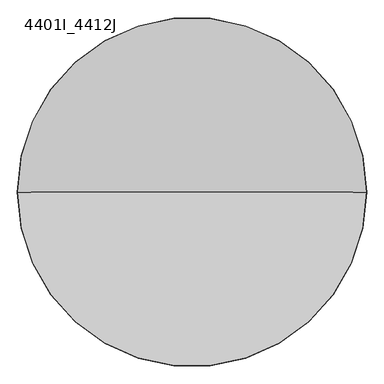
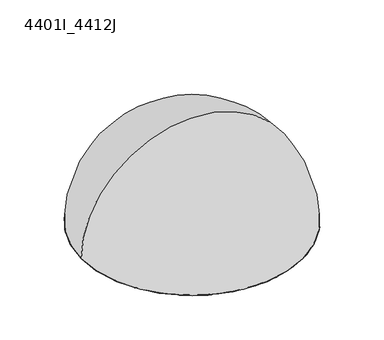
"""IFC4 building model written with IfcOpenShell, lengths in millimetres: alarm geometry, 4401I_Analog Smoke Detector : 4401I_4412J."""

from ifc_helpers import new_model, si_unit, point, frame, origin, origin_with_axes, origin_2d, place, context, project, spatial, polyline, circle_curve, ellipse_curve, trimmed, segment, composite_curve, outline, extrude, source, transform, mapped, element, save
from ifc_brep_helpers import plane_surface, cylinder_surface, revolved_surface, advanced_brep


def alarm_4401i_4412j_49958223(model_context):
    return source(origin(), model_context, "Body", "SolidModel", [
        advanced_brep(
        [(49.4021885, 0.0, 18.7), (-49.4021885, 0.0, 18.7), (-25.0, 0.0, 26.9055913), (25.0, 0.0, 26.9055913), (46.9790343, 0.0, 18.7), (-46.9790343, 0.0, 18.7), (22.5768458, 0.0, 26.9055913), (-22.5768458, 0.0, 26.9055913)],
        [
            (0, 1, circle_curve(frame((0.0, 0.0, 18.7), z_axis=(0.0, 0.0, 1.0), x_axis=(-1.0, 0.0, 0.0)), 49.4021885)),
            (1, 2),
            (2, 3, circle_curve(frame((0.0, 0.0, 26.9055913), z_axis=(0.0, 0.0, -1.0), x_axis=(-1.0, 0.0, 0.0)), 25.0)),
            (3, 0),
            (1, 0, circle_curve(frame((0.0, 0.0, 18.7), z_axis=(0.0, 0.0, 1.0), x_axis=(-1.0, 0.0, 0.0)), 49.4021885)),
            (3, 2, circle_curve(frame((0.0, 0.0, 26.9055913), z_axis=(0.0, 0.0, -1.0), x_axis=(-1.0, 0.0, 0.0)), 25.0)),
            (4, 5, circle_curve(frame((0.0, 0.0, 18.7), z_axis=(0.0, 0.0, 1.0), x_axis=(-1.0, 0.0, 0.0)), 46.9790343)),
            (5, 1),
            (0, 4),
            (5, 4, circle_curve(frame((0.0, 0.0, 18.7), z_axis=(0.0, 0.0, 1.0), x_axis=(-1.0, 0.0, 0.0)), 46.9790343)),
            (6, 7, circle_curve(frame((0.0, 0.0, 26.9055913), z_axis=(0.0, 0.0, 1.0), x_axis=(-1.0, 0.0, 0.0)), 22.5768458)),
            (7, 5),
            (4, 6),
            (7, 6, circle_curve(frame((0.0, 0.0, 26.9055913), z_axis=(0.0, 0.0, 1.0), x_axis=(-1.0, 0.0, 0.0)), 22.5768458)),
            (2, 7),
            (6, 3),
        ],
        [
            revolved_surface(polyline([(-25.0, 0.0, 26.9055913), (-49.4021885, 0.0, 18.7)]), (0.0, 0.0, 2609.0581012), (0.0, 0.0, -1.0)),
            plane_surface(frame((0.0, 0.0, 18.7), z_axis=(0.0, 0.0, -1.0), x_axis=(-1.0, 0.0, 0.0))),
            revolved_surface(polyline([(-46.9790343, 0.0, 18.7), (-22.5768458, 0.0, 26.9055913)]), (0.0, 0.0, 2609.0581012), (0.0, 0.0, -1.0)),
            plane_surface(frame((0.0, 0.0, 26.9055913), z_axis=(0.0, 0.0, 1.0), x_axis=(-1.0, 0.0, 0.0))),
        ],
        [
            (0, [[1, 2, 3, 4]]),
            (0, [[5, -4, 6, -2]]),
            (1, [[7, 8, -1, 9]]),
            (1, [[10, -9, -5, -8]]),
            (2, [[11, 12, -7, 13]]),
            (2, [[14, -13, -10, -12]]),
            (3, [[-3, 15, -11, 16]]),
            (3, [[-6, -16, -14, -15]]),
        ],
    ),
        advanced_brep(
        [(-25.0, 0.0, 40.0055913), (25.0, 0.0, 40.0055913), (-10.2364426, 22.8082275, 26.9055913), (-7.8171012, 23.7464298, 26.9055913), (-6.566365, 19.9470011, 26.9055913), (-0.7601379, 20.9862381, 26.9055913), (-0.7748533, 24.9879892, 26.9055913), (1.8194655, 24.933703, 26.9055913), (1.528351, 20.9443105, 26.9055913), (7.2926143, 19.6930895, 26.9055913), (8.8036125, 23.3986411, 26.9055913), (11.1815896, 22.3600549, 26.9055913), (9.3925353, 18.7824461, 26.9055913), (14.2453716, 15.4294973, 26.9055913), (17.0541691, 18.2799157, 26.9055913), (18.857118, 16.4136864, 26.9055913), (15.8399791, 13.7874966, 26.9055913), (19.0494019, 8.8385682, 26.9055913), (22.7323284, 10.4039053, 26.9055913), (23.688298, 7.9915291, 26.9055913), (19.8981703, 6.7128844, 26.9055913), (20.9800803, 0.9144573, 26.9055913), (24.9816149, 0.9586025, 26.9055913), (25.0, 0.0, 26.9055913), (24.9464097, -1.6360453, 26.9055913), (20.9549841, -1.3742781, 26.9055913), (19.7461893, -7.1475874, 26.9055913), (23.4627531, -8.6312929, 26.9055913), (22.4416834, -11.0168438, 26.9055913), (18.851014, -9.2541488, 26.9055913), (15.5338454, -14.1315126, 26.9055913), (18.4048435, -16.9192711, 26.9055913), (16.5519242, -18.7358962, 26.9055913), (13.9036163, -15.7381528, 26.9055913), (8.978425, -18.9838849, 26.9055913), (10.5708052, -22.6551998, 26.9055913), (8.1655248, -23.628885, 26.9055913), (6.8590408, -19.8482634, 26.9055913), (1.0687273, -20.9727877, 26.9055913), (1.1422999, -24.9738894, 26.9055913), (-1.4525367, -24.9577671, 26.9055913), (-1.2201308, -20.9645243, 26.9055913), (-7.0021739, -19.7982211, 26.9055913), (-8.4585064, -23.5255961, 26.9055913), (-10.8515021, -22.5220981, 26.9055913), (-9.1152617, -18.9185624, 26.9055913), (-14.0168893, -15.6373532, 26.9055913), (-16.7834581, -18.5287758, 26.9055913), (-18.613661, -16.6892667, 26.9055913), (-15.6354753, -14.018984, 26.9055913), (-18.9173411, -9.1177961, 26.9055913), (-22.5768458, -10.7371334, 26.9055913), (-23.5681939, -8.3390788, 26.9055913), (-19.7972829, -7.0048262, 26.9055913), (-20.9643607, -1.2229394, 26.9055913), (-24.9648131, -1.3259355, 26.9055913), (-25.0, 0.0, 26.9055913), (-24.9677746, 1.2689495, 26.9055913), (-20.9729306, 1.0659176, 26.9055913), (-19.8491821, 6.8563817, 26.9055913), (-23.5871666, 8.2852624, 26.9055913), (-22.2772169, 11.3457307, 26.9055913), (-18.7128622, 9.5304138, 26.9055913), (-15.3243147, 14.3584602, 26.9055913), (-18.1539992, 17.1881446, 26.9055913), (-16.2745608, 18.9773199, 26.9055913), (-13.6706311, 15.9409487, 26.9055913), (-8.6982334, 19.1138885, 26.9055913), (-24.9648131, -1.3259355, 35.6055913), (-23.5681939, -8.3390788, 35.6055913), (-22.5768458, -10.7371334, 35.6055913), (-18.613661, -16.6892667, 35.6055913), (-16.7834581, -18.5287758, 35.6055913), (-10.8515021, -22.5220981, 35.6055913), (-8.4585064, -23.5255961, 35.6055913), (-1.4525367, -24.9577671, 35.6055913), (1.1422999, -24.9738894, 35.6055913), (8.1655248, -23.628885, 35.6055913), (10.5708052, -22.6551998, 35.6055913), (16.5519242, -18.7358962, 35.6055913), (18.4048435, -16.9192711, 35.6055913), (22.4416834, -11.0168438, 35.6055913), (23.4627531, -8.6312929, 35.6055913), (24.9464097, -1.6360453, 35.6055913), (24.9816149, 0.9586025, 35.6055913), (23.688298, 7.9915291, 35.6055913), (22.7323284, 10.4039053, 35.6055913), (18.857118, 16.4136864, 35.6055913), (17.0541691, 18.2799157, 35.6055913), (11.1815896, 22.3600549, 35.6055913), (8.8036125, 23.3986411, 35.6055913), (1.8194655, 24.933703, 35.6055913), (-0.7748533, 24.9879892, 35.6055913), (-7.8171012, 23.7464298, 35.6055913), (-10.2364426, 22.8082275, 35.6055913), (-16.2745608, 18.9773199, 35.6055913), (-18.1539992, 17.1881446, 35.6055913), (-22.2772169, 11.3457307, 35.6055913), (-23.5871666, 8.2852624, 35.6055913), (-24.9677746, 1.2689495, 35.6055913), (-8.6982334, 19.1138885, 35.6055913), (-13.6706311, 15.9409487, 35.6055913), (-0.7601379, 20.9862381, 35.6055913), (-6.566365, 19.9470011, 35.6055913), (7.2926143, 19.6930895, 35.6055913), (1.528351, 20.9443105, 35.6055913), (14.2453716, 15.4294973, 35.6055913), (9.3925353, 18.7824461, 35.6055913), (19.0494019, 8.8385682, 35.6055913), (15.8399791, 13.7874966, 35.6055913), (20.9800803, 0.9144573, 35.6055913), (19.8981703, 6.7128844, 35.6055913), (19.7461893, -7.1475874, 35.6055913), (20.9549841, -1.3742781, 35.6055913), (15.5338454, -14.1315126, 35.6055913), (18.851014, -9.2541488, 35.6055913), (8.978425, -18.9838849, 35.6055913), (13.9036163, -15.7381528, 35.6055913), (1.0687273, -20.9727877, 35.6055913), (6.8590408, -19.8482634, 35.6055913), (-7.0021739, -19.7982211, 35.6055913), (-1.2201308, -20.9645243, 35.6055913), (-14.0168893, -15.6373532, 35.6055913), (-9.1152617, -18.9185624, 35.6055913), (-18.9173411, -9.1177961, 35.6055913), (-15.6354753, -14.018984, 35.6055913), (-20.9643607, -1.2229394, 35.6055913), (-19.7972829, -7.0048262, 35.6055913), (-19.8491821, 6.8563817, 35.6055913), (-20.9729306, 1.0659176, 35.6055913), (-15.3243147, 14.3584602, 35.6055913), (-18.7128622, 9.5304138, 35.6055913)],
        [
            (0, 1, circle_curve(frame((0.0, 0.0, 40.0055913), z_axis=(0.0, 0.0, 1.0), x_axis=(1.0, 0.0, 0.0)), 25.0)),
            (1, 0, circle_curve(frame((0.0, 0.0, 40.0055913), z_axis=(0.0, 0.0, 1.0), x_axis=(1.0, 0.0, 0.0)), 25.0)),
            (2, 3, circle_curve(frame((0.0, 0.0, 26.9055913), z_axis=(0.0, 0.0, -1.0), x_axis=(1.0, 0.0, 0.0)), 25.0)),
            (3, 4),
            (4, 5, circle_curve(frame((0.0, 0.0, 26.9055913), z_axis=(0.0, 0.0, -1.0), x_axis=(0.7097021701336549, -0.7045018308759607, 0.0)), 21.0)),
            (5, 6),
            (6, 7, circle_curve(frame((0.0, 0.0, 26.9055913), z_axis=(0.0, 0.0, -1.0), x_axis=(1.0, 0.0, 0.0)), 25.0)),
            (7, 8),
            (8, 9, circle_curve(frame((0.0, 0.0, 26.9055913), z_axis=(0.0, 0.0, -1.0), x_axis=(0.38777352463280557, -0.9217546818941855, 0.0)), 21.0)),
            (9, 10),
            (10, 11, circle_curve(frame((0.0, 0.0, 26.9055913), z_axis=(0.0, 0.0, -1.0), x_axis=(1.0, 0.0, 0.0)), 25.0)),
            (11, 12),
            (12, 13, circle_curve(frame((0.0, 0.0, 26.9055913), z_axis=(0.0, 0.0, -1.0), x_axis=(0.0073543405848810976, -0.9999729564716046, 0.0)), 21.0)),
            (13, 14),
            (14, 15, circle_curve(frame((0.0, 0.0, 26.9055913), z_axis=(0.0, 0.0, -1.0), x_axis=(1.0, 0.0, 0.0)), 25.0)),
            (15, 16),
            (16, 17, circle_curve(frame((0.0, 0.0, 26.9055913), z_axis=(0.0, 0.0, -1.0), x_axis=(-0.3741741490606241, -0.9273584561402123, 0.0)), 21.0)),
            (17, 18),
            (18, 19, circle_curve(frame((0.0, 0.0, 26.9055913), z_axis=(0.0, 0.0, -1.0), x_axis=(1.0, 0.0, 0.0)), 25.0)),
            (19, 20),
            (20, 21, circle_curve(frame((0.0, 0.0, 26.9055913), z_axis=(0.0, 0.0, -1.0), x_axis=(-0.6992633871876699, -0.7148641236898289, 0.0)), 21.0)),
            (21, 22),
            (22, 23, circle_curve(frame((0.0, 0.0, 26.9055913), z_axis=(0.0, 0.0, -1.0), x_axis=(1.0, 0.0, 0.0)), 25.0)),
            (23, 24, circle_curve(frame((0.0, 0.0, 26.9055913), z_axis=(0.0, 0.0, -1.0), x_axis=(1.0, 0.0, 0.0)), 25.0)),
            (24, 25),
            (25, 26, circle_curve(frame((0.0, 0.0, 26.9055913), z_axis=(0.0, 0.0, -1.0), x_axis=(-0.9188779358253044, -0.39454193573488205, 0.0)), 21.0)),
            (26, 27),
            (27, 28, circle_curve(frame((0.0, 0.0, 26.9055913), z_axis=(0.0, 0.0, -1.0), x_axis=(1.0, 0.0, 0.0)), 25.0)),
            (28, 29),
            (29, 30, circle_curve(frame((0.0, 0.0, 26.9055913), z_axis=(0.0, 0.0, -1.0), x_axis=(-0.9998918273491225, -0.014708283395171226, 0.0)), 21.0)),
            (30, 31),
            (31, 32, circle_curve(frame((0.0, 0.0, 26.9055913), z_axis=(0.0, 0.0, -1.0), x_axis=(1.0, 0.0, 0.0)), 25.0)),
            (32, 33),
            (33, 34, circle_curve(frame((0.0, 0.0, 26.9055913), z_axis=(0.0, 0.0, -1.0), x_axis=(-0.9300851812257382, 0.3673439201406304, 0.0)), 21.0)),
            (34, 35),
            (35, 36, circle_curve(frame((0.0, 0.0, 26.9055913), z_axis=(0.0, 0.0, -1.0), x_axis=(1.0, 0.0, 0.0)), 25.0)),
            (36, 37),
            (37, 38, circle_curve(frame((0.0, 0.0, 26.9055913), z_axis=(0.0, 0.0, -1.0), x_axis=(-0.7199874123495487, 0.6939871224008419, 0.0)), 21.0)),
            (38, 39),
            (39, 40, circle_curve(frame((0.0, 0.0, 26.9055913), z_axis=(0.0, 0.0, -1.0), x_axis=(1.0, 0.0, 0.0)), 25.0)),
            (40, 41),
            (41, 42, circle_curve(frame((0.0, 0.0, 26.9055913), z_axis=(0.0, 0.0, -1.0), x_axis=(-0.4012890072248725, 0.9159514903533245, 0.0)), 21.0)),
            (42, 43),
            (43, 44, circle_curve(frame((0.0, 0.0, 26.9055913), z_axis=(0.0, 0.0, -1.0), x_axis=(1.0, 0.0, 0.0)), 25.0)),
            (44, 45),
            (45, 46, circle_curve(frame((0.0, 0.0, 26.9055913), z_axis=(0.0, 0.0, -1.0), x_axis=(-0.022061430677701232, 0.9997566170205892, 0.0)), 21.0)),
            (46, 47),
            (47, 48, circle_curve(frame((0.0, 0.0, 26.9055913), z_axis=(0.0, 0.0, -1.0), x_axis=(1.0, 0.0, 0.0)), 25.0)),
            (48, 49),
            (49, 50, circle_curve(frame((0.0, 0.0, 26.9055913), z_axis=(0.0, 0.0, -1.0), x_axis=(0.36049382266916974, 0.9327616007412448, 0.0)), 21.0)),
            (50, 51),
            (51, 52, circle_curve(frame((0.0, 0.0, 26.9055913), z_axis=(0.0, 0.0, -1.0), x_axis=(1.0, 0.0, 0.0)), 25.0)),
            (52, 53),
            (53, 54, circle_curve(frame((0.0, 0.0, 26.9055913), z_axis=(0.0, 0.0, -1.0), x_axis=(0.6886733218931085, 0.7250717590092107, 0.0)), 21.0)),
            (54, 55),
            (55, 56, circle_curve(frame((0.0, 0.0, 26.9055913), z_axis=(0.0, 0.0, -1.0), x_axis=(1.0, 0.0, 0.0)), 25.0)),
            (56, 57, circle_curve(frame((0.0, 0.0, 26.9055913), z_axis=(0.0, 0.0, -1.0), x_axis=(1.0, 0.0, 0.0)), 25.0)),
            (57, 58),
            (58, 59, circle_curve(frame((0.0, 0.0, 26.9055913), z_axis=(0.0, 0.0, -1.0), x_axis=(0.9129755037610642, 0.4080143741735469, 0.0)), 21.0)),
            (59, 60),
            (60, 61, circle_curve(frame((0.0, 0.0, 26.9055913), z_axis=(0.0, 0.0, -1.0), x_axis=(1.0, 0.0, 0.0)), 25.0)),
            (61, 62),
            (62, 63, circle_curve(frame((0.0, 0.0, 26.9055913), z_axis=(0.0, 0.0, -1.0), x_axis=(1.0, 0.0, 0.0)), 21.0)),
            (63, 64),
            (64, 65, circle_curve(frame((0.0, 0.0, 26.9055913), z_axis=(0.0, 0.0, -1.0), x_axis=(1.0, 0.0, 0.0)), 25.0)),
            (65, 66),
            (66, 67, circle_curve(frame((0.0, 0.0, 26.9055913), z_axis=(0.0, 0.0, -1.0), x_axis=(0.9245815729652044, -0.3809841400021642, 0.0)), 21.0)),
            (67, 2),
            (0, 56),
            (55, 68),
            (68, 69, circle_curve(frame((0.0, 0.0, 35.6055913), z_axis=(0.0, 0.0, 1.0), x_axis=(1.0, 0.0, 0.0)), 25.0)),
            (69, 52),
            (51, 70),
            (70, 71, circle_curve(frame((0.0, 0.0, 35.6055913), z_axis=(0.0, 0.0, 1.0), x_axis=(1.0, 0.0, 0.0)), 25.0)),
            (71, 48),
            (47, 72),
            (72, 73, circle_curve(frame((0.0, 0.0, 35.6055913), z_axis=(0.0, 0.0, 1.0), x_axis=(1.0, 0.0, 0.0)), 25.0)),
            (73, 44),
            (43, 74),
            (74, 75, circle_curve(frame((0.0, 0.0, 35.6055913), z_axis=(0.0, 0.0, 1.0), x_axis=(1.0, 0.0, 0.0)), 25.0)),
            (75, 40),
            (39, 76),
            (76, 77, circle_curve(frame((0.0, 0.0, 35.6055913), z_axis=(0.0, 0.0, 1.0), x_axis=(1.0, 0.0, 0.0)), 25.0)),
            (77, 36),
            (35, 78),
            (78, 79, circle_curve(frame((0.0, 0.0, 35.6055913), z_axis=(0.0, 0.0, 1.0), x_axis=(1.0, 0.0, 0.0)), 25.0)),
            (79, 32),
            (31, 80),
            (80, 81, circle_curve(frame((0.0, 0.0, 35.6055913), z_axis=(0.0, 0.0, 1.0), x_axis=(1.0, 0.0, 0.0)), 25.0)),
            (81, 28),
            (27, 82),
            (82, 83, circle_curve(frame((0.0, 0.0, 35.6055913), z_axis=(0.0, 0.0, 1.0), x_axis=(1.0, 0.0, 0.0)), 25.0)),
            (83, 24),
            (23, 1),
            (22, 84),
            (84, 85, circle_curve(frame((0.0, 0.0, 35.6055913), z_axis=(0.0, 0.0, 1.0), x_axis=(1.0, 0.0, 0.0)), 25.0)),
            (85, 19),
            (18, 86),
            (86, 87, circle_curve(frame((0.0, 0.0, 35.6055913), z_axis=(0.0, 0.0, 1.0), x_axis=(1.0, 0.0, 0.0)), 25.0)),
            (87, 15),
            (14, 88),
            (88, 89, circle_curve(frame((0.0, 0.0, 35.6055913), z_axis=(0.0, 0.0, 1.0), x_axis=(1.0, 0.0, 0.0)), 25.0)),
            (89, 11),
            (10, 90),
            (90, 91, circle_curve(frame((0.0, 0.0, 35.6055913), z_axis=(0.0, 0.0, 1.0), x_axis=(1.0, 0.0, 0.0)), 25.0)),
            (91, 7),
            (6, 92),
            (92, 93, circle_curve(frame((0.0, 0.0, 35.6055913), z_axis=(0.0, 0.0, 1.0), x_axis=(1.0, 0.0, 0.0)), 25.0)),
            (93, 3),
            (2, 94),
            (94, 95, circle_curve(frame((0.0, 0.0, 35.6055913), z_axis=(0.0, 0.0, 1.0), x_axis=(1.0, 0.0, 0.0)), 25.0)),
            (95, 65),
            (64, 96),
            (96, 97, circle_curve(frame((0.0, 0.0, 35.6055913), z_axis=(0.0, 0.0, 1.0), x_axis=(1.0, 0.0, 0.0)), 25.0)),
            (97, 61),
            (60, 98),
            (98, 99, circle_curve(frame((0.0, 0.0, 35.6055913), z_axis=(0.0, 0.0, 1.0), x_axis=(1.0, 0.0, 0.0)), 25.0)),
            (99, 57),
            (100, 101, circle_curve(frame((0.0, 0.0, 35.6055913), z_axis=(0.0, 0.0, 1.0), x_axis=(0.9245815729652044, -0.3809841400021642, 0.0)), 21.0)),
            (101, 95),
            (94, 100),
            (102, 103, circle_curve(frame((0.0, 0.0, 35.6055913), z_axis=(0.0, 0.0, 1.0), x_axis=(0.7097021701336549, -0.7045018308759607, 0.0)), 21.0)),
            (103, 93),
            (92, 102),
            (104, 105, circle_curve(frame((0.0, 0.0, 35.6055913), z_axis=(0.0, 0.0, 1.0), x_axis=(0.38777352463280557, -0.9217546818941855, 0.0)), 21.0)),
            (105, 91),
            (90, 104),
            (106, 107, circle_curve(frame((0.0, 0.0, 35.6055913), z_axis=(0.0, 0.0, 1.0), x_axis=(0.0073543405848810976, -0.9999729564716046, 0.0)), 21.0)),
            (107, 89),
            (88, 106),
            (108, 109, circle_curve(frame((0.0, 0.0, 35.6055913), z_axis=(0.0, 0.0, 1.0), x_axis=(-0.3741741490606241, -0.9273584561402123, 0.0)), 21.0)),
            (109, 87),
            (86, 108),
            (110, 111, circle_curve(frame((0.0, 0.0, 35.6055913), z_axis=(0.0, 0.0, 1.0), x_axis=(-0.6992633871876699, -0.7148641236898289, 0.0)), 21.0)),
            (111, 85),
            (84, 110),
            (112, 113, circle_curve(frame((0.0, 0.0, 35.6055913), z_axis=(0.0, 0.0, 1.0), x_axis=(-0.9188779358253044, -0.39454193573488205, 0.0)), 21.0)),
            (113, 83),
            (82, 112),
            (114, 115, circle_curve(frame((0.0, 0.0, 35.6055913), z_axis=(0.0, 0.0, 1.0), x_axis=(-0.9998918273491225, -0.014708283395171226, 0.0)), 21.0)),
            (115, 81),
            (80, 114),
            (116, 117, circle_curve(frame((0.0, 0.0, 35.6055913), z_axis=(0.0, 0.0, 1.0), x_axis=(-0.9300851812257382, 0.3673439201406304, 0.0)), 21.0)),
            (117, 79),
            (78, 116),
            (118, 119, circle_curve(frame((0.0, 0.0, 35.6055913), z_axis=(0.0, 0.0, 1.0), x_axis=(-0.7199874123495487, 0.6939871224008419, 0.0)), 21.0)),
            (119, 77),
            (76, 118),
            (120, 121, circle_curve(frame((0.0, 0.0, 35.6055913), z_axis=(0.0, 0.0, 1.0), x_axis=(-0.4012890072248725, 0.9159514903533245, 0.0)), 21.0)),
            (121, 75),
            (74, 120),
            (122, 123, circle_curve(frame((0.0, 0.0, 35.6055913), z_axis=(0.0, 0.0, 1.0), x_axis=(-0.022061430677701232, 0.9997566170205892, 0.0)), 21.0)),
            (123, 73),
            (72, 122),
            (124, 125, circle_curve(frame((0.0, 0.0, 35.6055913), z_axis=(0.0, 0.0, 1.0), x_axis=(0.36049382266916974, 0.9327616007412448, 0.0)), 21.0)),
            (125, 71),
            (70, 124),
            (126, 127, circle_curve(frame((0.0, 0.0, 35.6055913), z_axis=(0.0, 0.0, 1.0), x_axis=(0.6886733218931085, 0.7250717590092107, 0.0)), 21.0)),
            (127, 69),
            (68, 126),
            (128, 129, circle_curve(frame((0.0, 0.0, 35.6055913), z_axis=(0.0, 0.0, 1.0), x_axis=(0.9129755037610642, 0.4080143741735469, 0.0)), 21.0)),
            (129, 99),
            (98, 128),
            (130, 131, circle_curve(frame((0.0, 0.0, 35.6055913), z_axis=(0.0, 0.0, 1.0), x_axis=(1.0, 0.0, 0.0)), 21.0)),
            (131, 97),
            (96, 130),
            (100, 67),
            (66, 101),
            (102, 5),
            (4, 103),
            (104, 9),
            (8, 105),
            (106, 13),
            (12, 107),
            (108, 17),
            (16, 109),
            (110, 21),
            (20, 111),
            (26, 112),
            (113, 25),
            (30, 114),
            (115, 29),
            (34, 116),
            (117, 33),
            (119, 37),
            (118, 38),
            (42, 120),
            (121, 41),
            (46, 122),
            (123, 45),
            (125, 49),
            (124, 50),
            (127, 53),
            (126, 54),
            (128, 59),
            (58, 129),
            (130, 63),
            (62, 131),
        ],
        [
            plane_surface(frame((25.0, 0.0, 40.0055913), z_axis=(0.0, 0.0, 1.0), x_axis=(0.0, 1.0, 0.0))),
            plane_surface(frame((25.0, 0.0, 26.9055913), z_axis=(0.0, 0.0, -1.0), x_axis=(0.0, -1.0, 0.0))),
            cylinder_surface(frame((0.0, 0.0, 26.9055913), z_axis=(0.0, 0.0, 1.0), x_axis=(1.0, 0.0, 0.0)), 25.0),
            plane_surface(frame((19.416213, -8.0006669, 35.6055913), z_axis=(0.0, 0.0, -1.0), x_axis=(-0.38098414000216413, -0.9245815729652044, 0.0))),
            cylinder_surface(frame((0.0, 0.0, 26.9055913), z_axis=(0.0, 0.0, -1.0000000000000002), x_axis=(0.9245815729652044, -0.3809841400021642, 0.0)), 21.0),
            plane_surface(frame((-8.6982334, 19.1138885, 35.6055913), z_axis=(-0.9231743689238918, -0.3843814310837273, 0.0), x_axis=(0.0, 0.0, -1.0))),
            plane_surface(frame((-18.8784906, 22.0136911, 35.6055913), z_axis=(0.7590927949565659, 0.6509824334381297, 0.0), x_axis=(0.0, 0.0, -1.0))),
            cylinder_surface(frame((0.0, 0.0, 0.0), z_axis=(0.0, 0.0, -1.0), x_axis=(0.7097021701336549, -0.7045018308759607, 0.0)), 21.0),
            plane_surface(frame((-0.7601379, 20.9862381, 35.6055913), z_axis=(-0.9999932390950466, -0.0036771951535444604, 0.0), x_axis=(0.0, 0.0, -1.0))),
            plane_surface(frame((-9.0678374, 27.5458586, 35.6055913), z_axis=(0.9498571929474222, 0.3126840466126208, 0.0), x_axis=(0.0, 0.0, -1.0))),
            cylinder_surface(frame((0.0, 0.0, 0.0), z_axis=(0.0, 0.0, -1.0000000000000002), x_axis=(0.38777352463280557, -0.9217546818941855, 0.0)), 21.0),
            plane_surface(frame((7.2926143, 19.6930895, 35.6055913), z_axis=(-0.9259762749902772, 0.37758169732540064, 0.0), x_axis=(0.0, 0.0, -1.0))),
            plane_surface(frame((2.1105799, 28.9230955, 35.6055913), z_axis=(0.9973481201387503, -0.07277861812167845, 0.0), x_axis=(0.0, 0.0, -1.0))),
            cylinder_surface(frame((0.0, 0.0, 0.0), z_axis=(0.0, 0.0, -1.0), x_axis=(0.0073543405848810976, -0.9999729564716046, 0.0)), 21.0),
            plane_surface(frame((14.2453716, 15.4294973, 35.6055913), z_axis=(-0.7122879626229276, 0.7018873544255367, 0.0), x_axis=(0.0, 0.0, -1.0))),
            plane_surface(frame((12.970644, 25.9376636, 35.6055913), z_axis=(0.8944021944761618, -0.44726358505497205, 0.0), x_axis=(0.0, 0.0, -1.0))),
            cylinder_surface(frame((0.0, 0.0, 0.0), z_axis=(0.0, 0.0, -1.0000000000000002), x_axis=(-0.3741741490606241, -0.9273584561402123, 0.0)), 21.0),
            plane_surface(frame((19.0494019, 8.8385682, 35.6055913), z_axis=(-0.39116037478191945, 0.9203225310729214, 0.0), x_axis=(0.0, 0.0, -1.0))),
            plane_surface(frame((21.8742569, 19.0398762, 35.6055913), z_axis=(0.6565474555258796, -0.7542847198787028, 0.0), x_axis=(0.0, 0.0, -1.0))),
            cylinder_surface(frame((0.0, 0.0, 0.0), z_axis=(0.0, 0.0, -1.0), x_axis=(-0.6992633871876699, -0.7148641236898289, 0.0)), 21.0),
            plane_surface(frame((20.9800803, 0.9144573, 35.6055913), z_axis=(-0.011031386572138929, 0.999939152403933, 0.0), x_axis=(0.0, 0.0, -1.0))),
            plane_surface(frame((27.4784257, 9.2701738, 35.6055913), z_axis=(0.3196611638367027, -0.9475319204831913, 0.0), x_axis=(0.0, 0.0, -1.0))),
            plane_surface(frame((19.7461893, -7.1475874, 35.6055913), z_axis=(0.37076154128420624, 0.9287280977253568, 0.0), x_axis=(0.0, 0.0, -1.0))),
            plane_surface(frame((28.9378352, -1.8978126, 35.6055913), z_axis=(-0.06544181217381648, -0.9978563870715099, 0.0), x_axis=(0.0, 0.0, -1.0))),
            cylinder_surface(frame((0.0, 0.0, 0.0), z_axis=(0.0, 0.0, -1.0), x_axis=(-0.9188779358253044, -0.39454193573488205, 0.0)), 21.0),
            plane_surface(frame((15.5338454, -14.1315126, 35.6055913), z_axis=(0.6966299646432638, 0.7174306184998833, 0.0), x_axis=(0.0, 0.0, -1.0))),
            plane_surface(frame((26.0323527, -12.7795388, 35.6055913), z_axis=(-0.44067375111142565, -0.8976673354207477, 0.0), x_axis=(0.0, 0.0, -1.0))),
            cylinder_surface(frame((0.0, 0.0, 0.0), z_axis=(0.0, 0.0, -1.0), x_axis=(-0.9998918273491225, -0.014708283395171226, 0.0)), 21.0),
            plane_surface(frame((8.978425, -18.9838849, 35.6055913), z_axis=(0.9174209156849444, 0.39791816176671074, 0.0), x_axis=(0.0, 0.0, -1.0))),
            plane_surface(frame((19.200232, -21.7336396, 35.6055913), z_axis=(-0.7494358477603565, -0.6620769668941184, 0.0), x_axis=(0.0, 0.0, -1.0))),
            cylinder_surface(frame((0.0, 0.0, 0.0), z_axis=(0.0, 0.0, -1.0000000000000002), x_axis=(-0.9300851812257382, 0.3673439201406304, 0.0)), 21.0),
            plane_surface(frame((9.4720088, -27.4095066, 35.6055913), z_axis=(-0.945155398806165, -0.3266209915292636, 0.0), x_axis=(0.0, 0.0, -1.0))),
            cylinder_surface(frame((0.0, 0.0, 0.0), z_axis=(0.0, 0.0, -1.0000000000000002), x_axis=(-0.7199874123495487, 0.6939871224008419, 0.0)), 21.0),
            plane_surface(frame((1.0687273, -20.9727877, 35.6055913), z_axis=(0.9998309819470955, 0.01838498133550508, 0.0), x_axis=(0.0, 0.0, -1.0))),
            plane_surface(frame((-7.0021739, -19.7982211, 35.6055913), z_axis=(0.9314296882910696, -0.3639213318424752, 0.0), x_axis=(0.0, 0.0, -1.0))),
            plane_surface(frame((-1.6849425, -28.9510098, 35.6055913), z_axis=(-0.9983106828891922, 0.058101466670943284, 0.0), x_axis=(0.0, 0.0, -1.0))),
            cylinder_surface(frame((0.0, 0.0, 0.0), z_axis=(0.0, 0.0, -1.0), x_axis=(-0.4012890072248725, 0.9159514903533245, 0.0)), 21.0),
            plane_surface(frame((-14.0168893, -15.6373532, 35.6055913), z_axis=(0.7225344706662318, -0.691334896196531, 0.0), x_axis=(0.0, 0.0, -1.0))),
            plane_surface(frame((-12.5877424, -26.1256338, 35.6055913), z_axis=(-0.9008839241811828, 0.43406008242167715, 0.0), x_axis=(0.0, 0.0, -1.0))),
            cylinder_surface(frame((0.0, 0.0, 0.0), z_axis=(0.0, 0.0, -1.0), x_axis=(-0.022061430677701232, 0.9997566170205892, 0.0)), 21.0),
            plane_surface(frame((-21.5918468, -19.3595494, 35.6055913), z_axis=(-0.6675706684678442, 0.7445464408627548, 0.0), x_axis=(0.0, 0.0, -1.0))),
            cylinder_surface(frame((0.0, 0.0, 0.0), z_axis=(0.0, 0.0, -1.0000000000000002), x_axis=(0.36049382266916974, 0.9327616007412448, 0.0)), 21.0),
            plane_surface(frame((-18.9173411, -9.1177961, 35.6055913), z_axis=(0.4046544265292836, -0.914469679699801, 0.0), x_axis=(0.0, 0.0, -1.0))),
            plane_surface(frame((-27.3391049, -9.6733314, 35.6055913), z_axis=(-0.3335631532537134, 0.9427277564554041, 0.0), x_axis=(0.0, 0.0, -1.0))),
            cylinder_surface(frame((0.0, 0.0, 0.0), z_axis=(0.0, 0.0, -1.0), x_axis=(0.6886733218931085, 0.7250717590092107, 0.0)), 21.0),
            plane_surface(frame((-20.9643607, -1.2229394, 35.6055913), z_axis=(0.025737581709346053, -0.9996687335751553, 0.0), x_axis=(0.0, 0.0, -1.0))),
            cylinder_surface(frame((0.0, 0.0, 0.0), z_axis=(0.0, 0.0, -1.0), x_axis=(0.9129755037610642, 0.4080143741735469, 0.0)), 21.0),
            plane_surface(frame((-19.8491821, 6.8563817, 35.6055913), z_axis=(-0.35706143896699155, -0.9340809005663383, 0.0), x_axis=(0.0, 0.0, -1.0))),
            plane_surface(frame((-28.9626185, 1.4719814, 35.6055913), z_axis=(0.05075797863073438, 0.998710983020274, 0.0), x_axis=(0.0, 0.0, -1.0))),
            cylinder_surface(frame((0.0, 0.0, 0.0), z_axis=(0.0, 0.0, -1.0), x_axis=(1.0, 0.0, 0.0)), 21.0),
            plane_surface(frame((-15.3243147, 14.3584602, 35.6055913), z_axis=(-0.7071067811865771, -0.7071067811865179, 0.0), x_axis=(0.0, 0.0, -1.0))),
            plane_surface(frame((-25.8415717, 13.1610476, 35.6055913), z_axis=(0.45382922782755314, 0.8910886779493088, 0.0), x_axis=(0.0, 0.0, -1.0))),
        ],
        [
            (0, [[1, 2]]),
            (1, [[3, 4, 5, 6, 7, 8, 9, 10, 11, 12, 13, 14, 15, 16, 17, 18, 19, 20, 21, 22, 23, 24, 25, 26, 27, 28, 29, 30, 31, 32, 33, 34, 35, 36, 37, 38, 39, 40, 41, 42, 43, 44, 45, 46, 47, 48, 49, 50, 51, 52, 53, 54, 55, 56, 57, 58, 59, 60, 61, 62, 63, 64, 65, 66, 67, 68]]),
            (2, [[-1, 69, -56, 70, 71, 72, -52, 73, 74, 75, -48, 76, 77, 78, -44, 79, 80, 81, -40, 82, 83, 84, -36, 85, 86, 87, -32, 88, 89, 90, -28, 91, 92, 93, -24, 94]]),
            (2, [[-2, -94, -23, 95, 96, 97, -19, 98, 99, 100, -15, 101, 102, 103, -11, 104, 105, 106, -7, 107, 108, 109, -3, 110, 111, 112, -65, 113, 114, 115, -61, 116, 117, 118, -57, -69]]),
            (3, [[119, 120, -111, 121]]),
            (3, [[122, 123, -108, 124]]),
            (3, [[125, 126, -105, 127]]),
            (3, [[128, 129, -102, 130]]),
            (3, [[131, 132, -99, 133]]),
            (3, [[134, 135, -96, 136]]),
            (3, [[137, 138, -92, 139]]),
            (3, [[140, 141, -89, 142]]),
            (3, [[143, 144, -86, 145]]),
            (3, [[146, 147, -83, 148]]),
            (3, [[149, 150, -80, 151]]),
            (3, [[152, 153, -77, 154]]),
            (3, [[155, 156, -74, 157]]),
            (3, [[158, 159, -71, 160]]),
            (3, [[161, 162, -117, 163]]),
            (3, [[164, 165, -114, 166]]),
            (4, [[-119, 167, -67, 168]]),
            (5, [[-167, -121, -110, -68]]),
            (6, [[-168, -66, -112, -120]]),
            (7, [[-122, 169, -5, 170]]),
            (8, [[-169, -124, -107, -6]]),
            (9, [[-170, -4, -109, -123]]),
            (10, [[-125, 171, -9, 172]]),
            (11, [[-171, -127, -104, -10]]),
            (12, [[-172, -8, -106, -126]]),
            (13, [[-128, 173, -13, 174]]),
            (14, [[-173, -130, -101, -14]]),
            (15, [[-174, -12, -103, -129]]),
            (16, [[-131, 175, -17, 176]]),
            (17, [[-175, -133, -98, -18]]),
            (18, [[-176, -16, -100, -132]]),
            (19, [[-134, 177, -21, 178]]),
            (20, [[-177, -136, -95, -22]]),
            (21, [[-178, -20, -97, -135]]),
            (22, [[179, -139, -91, -27]]),
            (23, [[180, -25, -93, -138]]),
            (24, [[-137, -179, -26, -180]]),
            (25, [[181, -142, -88, -31]]),
            (26, [[182, -29, -90, -141]]),
            (27, [[-140, -181, -30, -182]]),
            (28, [[183, -145, -85, -35]]),
            (29, [[184, -33, -87, -144]]),
            (30, [[-143, -183, -34, -184]]),
            (31, [[185, -37, -84, -147]]),
            (32, [[-146, 186, -38, -185]]),
            (33, [[-186, -148, -82, -39]]),
            (34, [[187, -151, -79, -43]]),
            (35, [[188, -41, -81, -150]]),
            (36, [[-149, -187, -42, -188]]),
            (37, [[189, -154, -76, -47]]),
            (38, [[190, -45, -78, -153]]),
            (39, [[-152, -189, -46, -190]]),
            (40, [[191, -49, -75, -156]]),
            (41, [[-155, 192, -50, -191]]),
            (42, [[-192, -157, -73, -51]]),
            (43, [[193, -53, -72, -159]]),
            (44, [[-158, 194, -54, -193]]),
            (45, [[-194, -160, -70, -55]]),
            (46, [[-161, 195, -59, 196]]),
            (47, [[-195, -163, -116, -60]]),
            (48, [[-196, -58, -118, -162]]),
            (49, [[-164, 197, -63, 198]]),
            (50, [[-197, -166, -113, -64]]),
            (51, [[-198, -62, -115, -165]]),
        ],
    ),
        advanced_brep(
        [(25.0, 0.0, 18.7), (-25.0, 0.0, 18.7), (-25.0, 0.0, 17.0), (25.0, 0.0, 17.0), (49.4021885, 0.0, 18.7), (-49.4021885, 0.0, 18.7), (51.0000836, 0.0, 17.0), (-51.0000836, 0.0, 17.0)],
        [
            (0, 1, circle_curve(frame((0.0, 0.0, 18.7), z_axis=(0.0, 0.0, 1.0), x_axis=(-1.0, 0.0, 0.0)), 25.0)),
            (1, 2),
            (2, 3, circle_curve(frame((0.0, 0.0, 17.0), z_axis=(0.0, 0.0, -1.0), x_axis=(-1.0, 0.0, 0.0)), 25.0)),
            (3, 0),
            (1, 0, circle_curve(frame((0.0, 0.0, 18.7), z_axis=(0.0, 0.0, 1.0), x_axis=(-1.0, 0.0, 0.0)), 25.0)),
            (3, 2, circle_curve(frame((0.0, 0.0, 17.0), z_axis=(0.0, 0.0, -1.0), x_axis=(-1.0, 0.0, 0.0)), 25.0)),
            (4, 5, circle_curve(frame((0.0, 0.0, 18.7), z_axis=(0.0, 0.0, 1.0), x_axis=(-1.0, 0.0, 0.0)), 49.4021885)),
            (5, 1),
            (0, 4),
            (5, 4, circle_curve(frame((0.0, 0.0, 18.7), z_axis=(0.0, 0.0, 1.0), x_axis=(-1.0, 0.0, 0.0)), 49.4021885)),
            (6, 7, circle_curve(frame((0.0, 0.0, 17.0), z_axis=(0.0, 0.0, 1.0), x_axis=(-1.0, 0.0, 0.0)), 51.0000836)),
            (7, 5, circle_curve(frame((-49.2482507, 0.0, 16.9543466), z_axis=(0.0, 1.0, 0.0), x_axis=(1.0, 0.0, 0.0)), 1.7524276)),
            (4, 6, circle_curve(frame((49.2482507, 0.0, 16.9543466), z_axis=(0.0, 1.0, 0.0), x_axis=(-1.0, 0.0, 0.0)), 1.7524276)),
            (7, 6, circle_curve(frame((0.0, 0.0, 17.0), z_axis=(0.0, 0.0, 1.0), x_axis=(-1.0, 0.0, 0.0)), 51.0000836)),
            (2, 7),
            (6, 3),
        ],
        [
            revolved_surface(polyline([(-25.0, 0.0, 17.0), (-25.0, 0.0, 18.699999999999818)]), (0.0, 0.0, 2609.0581012), (0.0, 0.0, -1.0)),
            plane_surface(frame((0.0, 0.0, 18.7), z_axis=(0.0, 0.0, 1.0), x_axis=(-1.0, 0.0, 0.0))),
            revolved_surface(trimmed(ellipse_curve(frame((-49.2482507, 0.0, 16.9543466), z_axis=(0.0, -1.0, 0.0), x_axis=(1.0, 0.0, 0.0)), 1.7524276, 1.7524276), [point((-49.4021885, 0.0, 18.7))], [point((-51.0000836, 0.0, 17.0))], True, "CARTESIAN"), (0.0, 0.0, 2609.0581012), (0.0, 0.0, -1.0)),
            plane_surface(frame((0.0, 0.0, 17.0), z_axis=(0.0, 0.0, -1.0), x_axis=(-1.0, 0.0, 0.0))),
        ],
        [
            (0, [[1, 2, 3, 4]]),
            (0, [[5, -4, 6, -2]]),
            (1, [[7, 8, -1, 9]]),
            (1, [[10, -9, -5, -8]]),
            (2, [[11, 12, -7, 13]]),
            (2, [[14, -13, -10, -12]]),
            (3, [[-3, 15, -11, 16]]),
            (3, [[-6, -16, -14, -15]]),
        ],
    ),
        extrude(outline(composite_curve([segment(trimmed(circle_curve(origin_2d(), 51.0), [point((-51.0, 0.0))], [point((51.0, 0.0))], False, "CARTESIAN"), True, "CONTINUOUS"), segment(trimmed(circle_curve(origin_2d(), 51.0), [point((51.0, 0.0))], [point((-51.0, 0.0))], False, "CARTESIAN"), True, "CONTINUOUS")], self_intersect=False), holes=[composite_curve([segment(trimmed(circle_curve(origin_2d(), 25.0), [point((-25.0, 0.0))], [point((25.0, 0.0))], True, "CARTESIAN"), True, "CONTINUOUS"), segment(trimmed(circle_curve(origin_2d(), 25.0), [point((25.0, 0.0))], [point((-25.0, 0.0))], True, "CARTESIAN"), True, "CONTINUOUS")], self_intersect=False)]), frame((0.0, 0.0, 6.0), z_axis=(0.0, 0.0, 1.0), x_axis=(1.0, 0.0, 0.0)), (0.0, 0.0, 1.0), 11.0),
        advanced_brep(
        [(-15.1031836, 13.8785367, 0.0), (-15.1031836, 13.8785367, 6.0), (-20.2313451, 6.5547631, 6.0), (-20.2313451, 6.5547631, 0.0), (-17.4108001, 0.0, 6.0), (-17.4108001, 0.0, 0.0), (-7.2973101, -12.4891201, 6.0), (-7.2973101, -12.4891201, 0.0), (9.1563243, -15.3903398, 6.0), (9.1563243, -15.3903398, 0.0), (10.527795, -17.0839651, 6.0), (10.527795, -17.0839651, 0.0), (14.7057017, -13.7007629, 6.0), (14.7057017, -13.7007629, 0.0), (20.4277681, -6.1073244, 6.0), (20.4277681, -6.1073244, 0.0), (18.3468783, 0.0, 6.0), (18.3468783, 0.0, 0.0), (7.7436654, 13.0938775, 6.0), (7.7436654, 13.0938775, 0.0), (-9.3310611, 15.4935738, 6.0), (-9.3310611, 15.4935738, 0.0), (-10.9207126, 17.3880466, 6.0), (-10.9207126, 17.3880466, 0.0), (-25.0, -2.5, 0.0), (-25.0, -2.5, 6.0), (-22.5, 0.0, 6.0), (-25.0, 2.5, 6.0), (-25.0, 2.5, 0.0), (-22.5, 0.0, 0.0), (-36.5, 2.5, 6.0), (-36.5, 2.5, 0.0), (-39.0, 0.0, 6.0), (-36.5, -2.5, 6.0), (-36.5, -2.5, 0.0), (-39.0, 0.0, 0.0), (25.0, -2.5, 0.0), (25.0, -2.5, 6.0), (36.5, -2.5, 6.0), (36.5, -2.5, 0.0), (39.0, 0.0, 6.0), (36.5, 2.5, 6.0), (36.5, 2.5, 0.0), (39.0, 0.0, 0.0), (25.0, 2.5, 6.0), (25.0, 2.5, 0.0), (22.5, 0.0, 0.0), (22.5, 0.0, 6.0), (51.0, 0.0, 6.0), (-51.0, 0.0, 6.0), (-48.5, 0.0, 6.0), (48.5, 0.0, 6.0), (51.0, 0.0, 0.0), (-51.0, 0.0, 0.0), (-5.2206735, 35.1886903, 0.0), (-14.7312387, 32.0985203, 0.0), (-13.226081, 28.3925116, 0.0), (-4.7259266, 31.1886903, 0.0), (4.8578065, 31.1886903, 0.0), (6.0243869, 35.1886903, 0.0), (5.2206735, -34.2511903, 0.0), (14.7312387, -31.1610203, 0.0), (13.226081, -27.4550116, 0.0), (4.7259266, -30.2511903, 0.0), (-4.8578065, -30.2511903, 0.0), (-6.0243869, -34.2511903, 0.0), (44.5, 0.0, 6.0), (-44.5, 0.0, 6.0), (-14.7312387, 32.0985203, 6.0), (-5.2206735, 35.1886903, 6.0), (6.0243869, 35.1886903, 6.0), (4.8578065, 31.1886903, 6.0), (-4.7259266, 31.1886903, 6.0), (-13.226081, 28.3925116, 6.0), (14.7312387, -31.1610203, 6.0), (5.2206735, -34.2511903, 6.0), (-6.0243869, -34.2511903, 6.0), (-4.8578065, -30.2511903, 6.0), (4.7259266, -30.2511903, 6.0), (13.226081, -27.4550116, 6.0), (44.5, 0.0, 15.0), (-44.5, 0.0, 15.0), (48.5, 0.0, 15.0), (-48.5, 0.0, 15.0)],
        [
            (0, 1),
            (1, 2),
            (2, 3),
            (3, 0),
            (4, 5),
            (5, 3, circle_curve(frame((-26.6335267, -0.0843537, 0.0), z_axis=(0.0, 0.0, 1.0), x_axis=(1.0, 0.0, 0.0)), 9.2231123)),
            (2, 4, circle_curve(frame((-26.6335267, -0.0843537, 6.0), z_axis=(0.0, 0.0, -1.0), x_axis=(1.0, 0.0, 0.0)), 9.2231123)),
            (4, 6),
            (6, 7),
            (7, 5),
            (6, 8),
            (8, 9),
            (9, 7),
            (8, 10),
            (10, 11),
            (11, 9),
            (10, 12),
            (12, 13),
            (13, 11),
            (12, 14),
            (14, 15),
            (15, 13),
            (16, 17),
            (17, 15, circle_curve(frame((24.2012251, -1.4134678, 0.0), z_axis=(0.0, 0.0, 1.0), x_axis=(1.0, 0.0, 0.0)), 6.0225632)),
            (14, 16, circle_curve(frame((24.2012251, -1.4134678, 6.0), z_axis=(0.0, 0.0, -1.0), x_axis=(1.0, 0.0, 0.0)), 6.0225632)),
            (16, 18),
            (18, 19),
            (19, 17),
            (18, 20),
            (20, 21),
            (21, 19),
            (20, 22),
            (22, 23),
            (23, 21),
            (0, 23),
            (22, 1),
            (24, 25),
            (25, 26, circle_curve(frame((-25.0, 0.0, 6.0), z_axis=(0.0, 0.0, 1.0), x_axis=(1.0, 0.0, 0.0)), 2.5)),
            (26, 27, circle_curve(frame((-25.0, 0.0, 6.0), z_axis=(0.0, 0.0, 1.0), x_axis=(1.0, 0.0, 0.0)), 2.5)),
            (27, 28),
            (28, 29, circle_curve(frame((-25.0, 0.0, 0.0), z_axis=(0.0, 0.0, -1.0), x_axis=(1.0, 0.0, 0.0)), 2.5)),
            (29, 24, circle_curve(frame((-25.0, 0.0, 0.0), z_axis=(0.0, 0.0, -1.0), x_axis=(1.0, 0.0, 0.0)), 2.5)),
            (27, 30),
            (30, 31),
            (31, 28),
            (30, 32, circle_curve(frame((-36.5, 0.0, 6.0), z_axis=(0.0, 0.0, 1.0), x_axis=(1.0, 0.0, 0.0)), 2.5)),
            (32, 33, circle_curve(frame((-36.5, 0.0, 6.0), z_axis=(0.0, 0.0, 1.0), x_axis=(1.0, 0.0, 0.0)), 2.5)),
            (33, 34),
            (34, 35, circle_curve(frame((-36.5, 0.0, 0.0), z_axis=(0.0, 0.0, -1.0), x_axis=(1.0, 0.0, 0.0)), 2.5)),
            (35, 31, circle_curve(frame((-36.5, 0.0, 0.0), z_axis=(0.0, 0.0, -1.0), x_axis=(1.0, 0.0, 0.0)), 2.5)),
            (24, 34),
            (33, 25),
            (36, 37),
            (37, 38),
            (38, 39),
            (39, 36),
            (38, 40, circle_curve(frame((36.5, 0.0, 6.0), z_axis=(0.0, 0.0, 1.0), x_axis=(1.0, 0.0, 0.0)), 2.5)),
            (40, 41, circle_curve(frame((36.5, 0.0, 6.0), z_axis=(0.0, 0.0, 1.0), x_axis=(1.0, 0.0, 0.0)), 2.5)),
            (41, 42),
            (42, 43, circle_curve(frame((36.5, 0.0, 0.0), z_axis=(0.0, 0.0, -1.0), x_axis=(1.0, 0.0, 0.0)), 2.5)),
            (43, 39, circle_curve(frame((36.5, 0.0, 0.0), z_axis=(0.0, 0.0, -1.0), x_axis=(1.0, 0.0, 0.0)), 2.5)),
            (41, 44),
            (44, 45),
            (45, 42),
            (36, 46, circle_curve(frame((25.0, 0.0, 0.0), z_axis=(0.0, 0.0, -1.0), x_axis=(1.0, 0.0, 0.0)), 2.5)),
            (46, 45, circle_curve(frame((25.0, 0.0, 0.0), z_axis=(0.0, 0.0, -1.0), x_axis=(1.0, 0.0, 0.0)), 2.5)),
            (44, 47, circle_curve(frame((25.0, 0.0, 6.0), z_axis=(0.0, 0.0, 1.0), x_axis=(1.0, 0.0, 0.0)), 2.5)),
            (47, 37, circle_curve(frame((25.0, 0.0, 6.0), z_axis=(0.0, 0.0, 1.0), x_axis=(1.0, 0.0, 0.0)), 2.5)),
            (48, 49, circle_curve(frame((0.0, 0.0, 6.0), z_axis=(0.0, 0.0, 1.0), x_axis=(-1.0, 0.0, 0.0)), 51.0)),
            (49, 50),
            (50, 51, circle_curve(frame((0.0, 0.0, 6.0), z_axis=(0.0, 0.0, -1.0), x_axis=(-1.0, 0.0, 0.0)), 48.5)),
            (51, 48),
            (49, 48, circle_curve(frame((0.0, 0.0, 6.0), z_axis=(0.0, 0.0, 1.0), x_axis=(-1.0, 0.0, 0.0)), 51.0)),
            (51, 50, circle_curve(frame((0.0, 0.0, 6.0), z_axis=(0.0, 0.0, -1.0), x_axis=(-1.0, 0.0, 0.0)), 48.5)),
            (48, 52),
            (52, 53, circle_curve(frame((0.0, 0.0, 0.0), z_axis=(0.0, 0.0, 1.0), x_axis=(-1.0, 0.0, 0.0)), 51.0)),
            (53, 49),
            (53, 52, circle_curve(frame((0.0, 0.0, 0.0), z_axis=(0.0, 0.0, 1.0), x_axis=(-1.0, 0.0, 0.0)), 51.0)),
            (52, 43),
            (46, 17),
            (5, 29),
            (35, 53),
            (54, 55, circle_curve(frame((11.5578574, -32.630658, 0.0), z_axis=(0.0, 0.0, 1.0), x_axis=(1.0, 0.0, 0.0)), 69.8640329)),
            (55, 56, circle_curve(frame((-13.9786598, 30.245516, 0.0), z_axis=(0.0, 0.0, 1.0), x_axis=(1.0, 0.0, 0.0)), 2.0)),
            (56, 57, circle_curve(frame((11.5578574, -32.630658, 0.0), z_axis=(0.0, 0.0, -1.0), x_axis=(1.0, 0.0, 0.0)), 65.8640329)),
            (57, 58),
            (58, 59, circle_curve(frame((8.719171, 32.2326559, 0.0), z_axis=(0.0, 0.0, 1.0), x_axis=(1.0, 0.0, 0.0)), 4.0)),
            (59, 54),
            (60, 61, circle_curve(frame((-11.5578574, 33.568158, 0.0), z_axis=(0.0, 0.0, 1.0), x_axis=(1.0, 0.0, 0.0)), 69.8640329)),
            (61, 62, circle_curve(frame((13.9786598, -29.308016, 0.0), z_axis=(0.0, 0.0, 1.0), x_axis=(1.0, 0.0, 0.0)), 2.0)),
            (62, 63, circle_curve(frame((-11.5578574, 33.568158, 0.0), z_axis=(0.0, 0.0, -1.0), x_axis=(1.0, 0.0, 0.0)), 65.8640329)),
            (63, 64),
            (64, 65, circle_curve(frame((-8.719171, -31.2951559, 0.0), z_axis=(0.0, 0.0, 1.0), x_axis=(1.0, 0.0, 0.0)), 4.0)),
            (65, 60),
            (66, 67, circle_curve(frame((0.0, 0.0, 6.0), z_axis=(0.0, 0.0, 1.0), x_axis=(-1.0, 0.0, 0.0)), 44.5)),
            (67, 32),
            (26, 4),
            (16, 47),
            (40, 66),
            (68, 69, circle_curve(frame((11.5578574, -32.630658, 6.0), z_axis=(0.0, 0.0, -1.0), x_axis=(1.0, 0.0, 0.0)), 69.8640329)),
            (69, 70),
            (70, 71, circle_curve(frame((8.719171, 32.2326559, 6.0), z_axis=(0.0, 0.0, -1.0), x_axis=(1.0, 0.0, 0.0)), 4.0)),
            (71, 72),
            (72, 73, circle_curve(frame((11.5578574, -32.630658, 6.0), z_axis=(0.0, 0.0, 1.0), x_axis=(1.0, 0.0, 0.0)), 65.8640329)),
            (73, 68, circle_curve(frame((-13.9786598, 30.245516, 6.0), z_axis=(0.0, 0.0, -1.0), x_axis=(1.0, 0.0, 0.0)), 2.0)),
            (67, 66, circle_curve(frame((0.0, 0.0, 6.0), z_axis=(0.0, 0.0, 1.0), x_axis=(-1.0, 0.0, 0.0)), 44.5)),
            (74, 75, circle_curve(frame((-11.5578574, 33.568158, 6.0), z_axis=(0.0, 0.0, -1.0), x_axis=(1.0, 0.0, 0.0)), 69.8640329)),
            (75, 76),
            (76, 77, circle_curve(frame((-8.719171, -31.2951559, 6.0), z_axis=(0.0, 0.0, -1.0), x_axis=(1.0, 0.0, 0.0)), 4.0)),
            (77, 78),
            (78, 79, circle_curve(frame((-11.5578574, 33.568158, 6.0), z_axis=(0.0, 0.0, 1.0), x_axis=(1.0, 0.0, 0.0)), 65.8640329)),
            (79, 74, circle_curve(frame((13.9786598, -29.308016, 6.0), z_axis=(0.0, 0.0, -1.0), x_axis=(1.0, 0.0, 0.0)), 2.0)),
            (66, 80),
            (80, 81, circle_curve(frame((0.0, 0.0, 15.0), z_axis=(0.0, 0.0, 1.0), x_axis=(-1.0, 0.0, 0.0)), 44.5)),
            (81, 67),
            (81, 80, circle_curve(frame((0.0, 0.0, 15.0), z_axis=(0.0, 0.0, 1.0), x_axis=(-1.0, 0.0, 0.0)), 44.5)),
            (80, 82),
            (82, 83, circle_curve(frame((0.0, 0.0, 15.0), z_axis=(0.0, 0.0, 1.0), x_axis=(-1.0, 0.0, 0.0)), 48.5)),
            (83, 81),
            (83, 82, circle_curve(frame((0.0, 0.0, 15.0), z_axis=(0.0, 0.0, 1.0), x_axis=(-1.0, 0.0, 0.0)), 48.5)),
            (50, 83),
            (82, 51),
            (54, 69),
            (68, 55),
            (73, 56),
            (72, 57),
            (71, 58),
            (70, 59),
            (60, 75),
            (74, 61),
            (79, 62),
            (78, 63),
            (77, 64),
            (76, 65),
        ],
        [
            plane_surface(frame((-15.1031836, 13.8785367, 15.0), z_axis=(0.819152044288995, -0.5735764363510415, 0.0), x_axis=(0.0, 0.0, -1.0))),
            cylinder_surface(frame((-26.6335267, -0.0843537, 0.0), z_axis=(0.0, 0.0, -1.0), x_axis=(1.0, 0.0, 0.0)), 9.2231123),
            plane_surface(frame((-17.4108001, 0.0, 15.0), z_axis=(0.7771459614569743, 0.6293203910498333, 0.0), x_axis=(0.0, 0.0, -1.0))),
            plane_surface(frame((-7.2973101, -12.4891201, 15.0), z_axis=(0.1736481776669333, 0.9848077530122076, 0.0), x_axis=(0.0, 0.0, -1.0))),
            plane_surface(frame((9.1563243, -15.3903398, 15.0), z_axis=(0.7771459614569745, 0.6293203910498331, 0.0), x_axis=(0.0, 0.0, -1.0))),
            plane_surface(frame((10.527795, -17.0839651, 15.0), z_axis=(-0.6293203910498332, 0.7771459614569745, 0.0), x_axis=(0.0, 0.0, -1.0))),
            plane_surface(frame((14.7057017, -13.7007629, 15.0), z_axis=(-0.7986355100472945, 0.6018150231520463, 0.0), x_axis=(0.0, 0.0, -1.0))),
            cylinder_surface(frame((24.2012251, -1.4134678, 0.0), z_axis=(0.0, 0.0, -1.0), x_axis=(1.0, 0.0, 0.0)), 6.0225632),
            plane_surface(frame((18.3468783, 0.0, 15.0), z_axis=(-0.7771459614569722, -0.6293203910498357, 0.0), x_axis=(0.0, 0.0, -1.0))),
            plane_surface(frame((7.7436654, 13.0938775, 15.0), z_axis=(-0.13917310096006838, -0.9902680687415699, 0.0), x_axis=(0.0, 0.0, -1.0))),
            plane_surface(frame((-9.3310611, 15.4935738, 15.0), z_axis=(-0.7660444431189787, -0.6427876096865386, 0.0), x_axis=(0.0, 0.0, -1.0))),
            plane_surface(frame((-10.9207126, 17.3880466, 15.0), z_axis=(0.6427876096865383, -0.766044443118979, 0.0), x_axis=(0.0, 0.0, -1.0))),
            revolved_surface(polyline([(-22.5, 0.0, 6.0), (-22.5, 0.0, 0.0)]), (-25.0, 0.0, 0.0), (0.0, 0.0, 1.0)),
            plane_surface(frame((-25.0, 2.5, 15.0), z_axis=(0.0, -1.0, 0.0), x_axis=(0.0, 0.0, -1.0))),
            revolved_surface(polyline([(-34.0, 0.0, 6.0), (-34.0, 0.0, 0.0)]), (-36.5, 0.0, 0.0), (0.0, 0.0, 1.0)),
            plane_surface(frame((-36.5, -2.5, 15.0), z_axis=(0.0, 1.0, 0.0), x_axis=(0.0, 0.0, -1.0))),
            plane_surface(frame((25.0, -2.5, 15.0), z_axis=(0.0, 1.0, 0.0), x_axis=(0.0, 0.0, -1.0))),
            revolved_surface(polyline([(39.0, 0.0, 6.0), (39.0, 0.0, 0.0)]), (36.5, 0.0, 0.0), (0.0, 0.0, 1.0)),
            plane_surface(frame((36.5, 2.5, 15.0), z_axis=(0.0, -1.0, 0.0), x_axis=(0.0, 0.0, -1.0))),
            revolved_surface(polyline([(27.5, 0.0, 6.0), (27.5, 0.0, 0.0)]), (25.0, 0.0, 0.0), (0.0, 0.0, 1.0)),
            plane_surface(frame((0.0, 0.0, 6.0), z_axis=(0.0, 0.0, 1.0), x_axis=(-1.0, 0.0, 0.0))),
            cylinder_surface(frame((0.0, 0.0, -11.8968302), z_axis=(0.0, 0.0, -1.0), x_axis=(-1.0, 0.0, 0.0)), 51.0),
            plane_surface(frame((0.0, 0.0, 0.0), z_axis=(0.0, 0.0, -1.0), x_axis=(-1.0, 0.0, 0.0))),
            revolved_surface(polyline([(-44.5, 0.0, 6.0), (-44.5, 0.0, 15.0)]), (0.0, 0.0, -11.8968302), (0.0, 0.0, -1.0)),
            plane_surface(frame((0.0, 0.0, 15.0), z_axis=(0.0, 0.0, 1.0), x_axis=(-1.0, 0.0, 0.0))),
            cylinder_surface(frame((0.0, 0.0, -11.8968302), z_axis=(0.0, 0.0, -1.0), x_axis=(-1.0, 0.0, 0.0)), 48.5),
            revolved_surface(polyline([(81.4218903, -32.630658, 6.0), (81.4218903, -32.630658, 0.0)]), (11.5578574, -32.630658, 0.0), (0.0, 0.0, 1.0)),
            revolved_surface(polyline([(-11.9786598, 30.245516, 6.0), (-11.9786598, 30.245516, 0.0)]), (-13.9786598, 30.245516, 0.0), (0.0, 0.0, 1.0)),
            cylinder_surface(frame((11.5578574, -32.630658, 0.0), z_axis=(0.0, 0.0, -1.0), x_axis=(1.0, 0.0, 0.0)), 65.8640329),
            plane_surface(frame((-4.7259266, 31.1886903, 15.0), z_axis=(0.0, 1.0, 0.0), x_axis=(0.0, 0.0, -1.0))),
            revolved_surface(polyline([(12.719171, 32.2326559, 6.0), (12.719171, 32.2326559, 0.0)]), (8.719171, 32.2326559, 0.0), (0.0, 0.0, 1.0)),
            plane_surface(frame((6.0243869, 35.1886903, 15.0), z_axis=(0.0, -1.0, 0.0), x_axis=(0.0, 0.0, -1.0))),
            revolved_surface(polyline([(58.306175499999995, 33.568158, 6.0), (58.306175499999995, 33.568158, 0.0)]), (-11.5578574, 33.568158, 0.0), (0.0, 0.0, 1.0)),
            revolved_surface(polyline([(15.9786598, -29.308016, 6.0), (15.9786598, -29.308016, 0.0)]), (13.9786598, -29.308016, 0.0), (0.0, 0.0, 1.0)),
            cylinder_surface(frame((-11.5578574, 33.568158, 0.0), z_axis=(0.0, 0.0, -1.0), x_axis=(1.0, 0.0, 0.0)), 65.8640329),
            plane_surface(frame((4.7259266, -30.2511903, 15.0), z_axis=(0.0, -1.0, 0.0), x_axis=(0.0, 0.0, -1.0))),
            revolved_surface(polyline([(-4.719170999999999, -31.2951559, 6.0), (-4.719170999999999, -31.2951559, 0.0)]), (-8.719171, -31.2951559, 0.0), (0.0, 0.0, 1.0)),
            plane_surface(frame((-6.0243869, -34.2511903, 15.0), z_axis=(0.0, 1.0, 0.0), x_axis=(0.0, 0.0, -1.0))),
        ],
        [
            (0, [[1, 2, 3, 4]]),
            (1, [[5, 6, -3, 7]]),
            (2, [[-5, 8, 9, 10]]),
            (3, [[-9, 11, 12, 13]]),
            (4, [[-12, 14, 15, 16]]),
            (5, [[-15, 17, 18, 19]]),
            (6, [[-18, 20, 21, 22]]),
            (7, [[23, 24, -21, 25]]),
            (8, [[-23, 26, 27, 28]]),
            (9, [[-27, 29, 30, 31]]),
            (10, [[-30, 32, 33, 34]]),
            (11, [[-1, 35, -33, 36]]),
            (12, [[37, 38, 39, 40, 41, 42]]),
            (13, [[-40, 43, 44, 45]]),
            (14, [[-44, 46, 47, 48, 49, 50]]),
            (15, [[-37, 51, -48, 52]]),
            (16, [[53, 54, 55, 56]]),
            (17, [[-55, 57, 58, 59, 60, 61]]),
            (18, [[-59, 62, 63, 64]]),
            (19, [[-53, 65, 66, -63, 67, 68]]),
            (20, [[69, 70, 71, 72]]),
            (20, [[-70, 73, -72, 74]]),
            (21, [[-69, 75, 76, 77]]),
            (21, [[-73, -77, 78, -75]]),
            (22, [[-76, 79, -60, -64, -66, 80, -28, -31, -34, -35, -4, -6, 81, -41, -45, -50, 82], [83, 84, 85, 86, 87, 88]]),
            (22, [[-78, -82, -49, -51, -42, -81, -10, -13, -16, -19, -22, -24, -80, -65, -56, -61, -79], [89, 90, 91, 92, 93, 94]]),
            (20, [[95, 96, -46, -43, -39, 97, -7, -2, -36, -32, -29, -26, 98, -67, -62, -58, 99], [100, 101, 102, 103, 104, 105]]),
            (20, [[106, -99, -57, -54, -68, -98, -25, -20, -17, -14, -11, -8, -97, -38, -52, -47, -96], [107, 108, 109, 110, 111, 112]]),
            (23, [[-95, 113, 114, 115]]),
            (23, [[-106, -115, 116, -113]]),
            (24, [[-114, 117, 118, 119]]),
            (24, [[-116, -119, 120, -117]]),
            (25, [[-71, 121, -118, 122]]),
            (25, [[-74, -122, -120, -121]]),
            (26, [[123, -100, 124, -83]]),
            (27, [[-124, -105, 125, -84]]),
            (28, [[-125, -104, 126, -85]]),
            (29, [[-126, -103, 127, -86]]),
            (30, [[-127, -102, 128, -87]]),
            (31, [[-123, -88, -128, -101]]),
            (32, [[129, -107, 130, -89]]),
            (33, [[-130, -112, 131, -90]]),
            (34, [[-131, -111, 132, -91]]),
            (35, [[-132, -110, 133, -92]]),
            (36, [[-133, -109, 134, -93]]),
            (37, [[-129, -94, -134, -108]]),
        ],
    ),
        extrude(outline(composite_curve([segment(trimmed(circle_curve(origin_2d(), 500.0), [point((-500.0, 0.0))], [point((500.0, 0.0))], False, "CARTESIAN"), True, "CONTINUOUS"), segment(trimmed(circle_curve(origin_2d(), 500.0), [point((500.0, 0.0))], [point((-500.0, 0.0))], False, "CARTESIAN"), True, "CONTINUOUS")], self_intersect=False)), origin_with_axes(), (0.0, 0.0, 1.0), 1.0),
        advanced_brep(
        [(500.0, 0.0, 0.0), (-500.0, 0.0, 0.0), (0.0, 0.0, 500.0), (0.0, 0.0, 0.0)],
        [
            (0, 1, circle_curve(frame((0.0, 0.0, 0.0), z_axis=(0.0, 0.0, 1.0), x_axis=(-1.0, 0.0, 0.0)), 500.0)),
            (1, 2, circle_curve(frame((0.0, 0.0, 0.0), z_axis=(0.0, 1.0, 0.0), x_axis=(1.0, 0.0, 0.0)), 500.0)),
            (2, 0, circle_curve(frame((0.0, 0.0, 0.0), z_axis=(0.0, 1.0, 0.0), x_axis=(-1.0, 0.0, 0.0)), 500.0)),
            (1, 0, circle_curve(frame((0.0, 0.0, 0.0), z_axis=(0.0, 0.0, 1.0), x_axis=(-1.0, 0.0, 0.0)), 500.0)),
            (3, 1),
            (0, 3),
        ],
        [
            revolved_surface(trimmed(ellipse_curve(frame((0.0, 0.0, 0.0), z_axis=(0.0, -1.0, 0.0), x_axis=(1.0, 0.0, 0.0)), 500.0, 500.0), [point((0.0, 0.0, 500.0))], [point((-500.0, 0.0, 0.0))], True, "CARTESIAN"), (0.0, 0.0, 2609.0581012), (0.0, 0.0, -1.0)),
            plane_surface(frame((0.0, 0.0, 0.0), z_axis=(0.0, 0.0, -1.0), x_axis=(-1.0, 0.0, 0.0))),
        ],
        [
            (0, [[1, 2, 3]]),
            (0, [[4, -3, -2]]),
            (1, [[5, -1, 6]]),
            (1, [[-6, -4, -5]]),
        ],
    ),
    ])


if __name__ == "__main__":
    model = new_model("IFC4")
    model_context = context("Model", 3, world=origin())
    ifc_project = project(units=[si_unit("LENGTHUNIT", "METRE", prefix="MILLI")], contexts=[model_context])
    site = spatial("IfcSite", under=ifc_project)
    building = spatial("IfcBuilding", under=site)
    placement = place(None, origin())
    alarm_4401i_4412j_shape = alarm_4401i_4412j_49958223(model_context)
    element("IfcAlarm", 1, ObjectType="4401I_Analog Smoke Detector : 4401I_4412J", at=placement, inside=building, context=model_context, shape_type="MappedRepresentation", body=[
        mapped(alarm_4401i_4412j_shape, transform((0.0, 0.0, 0.0), x_axis=(1.0, 0.0, 0.0), y_axis=(0.0, 1.0, 0.0), z_axis=(0.0, 0.0, 1.0))),
    ])
    save(model, "model.ifc")
